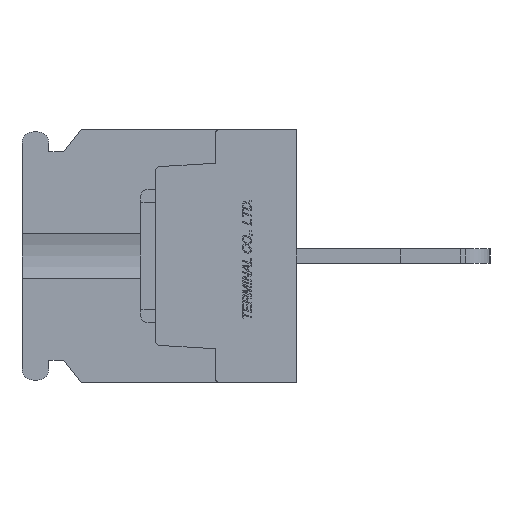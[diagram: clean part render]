
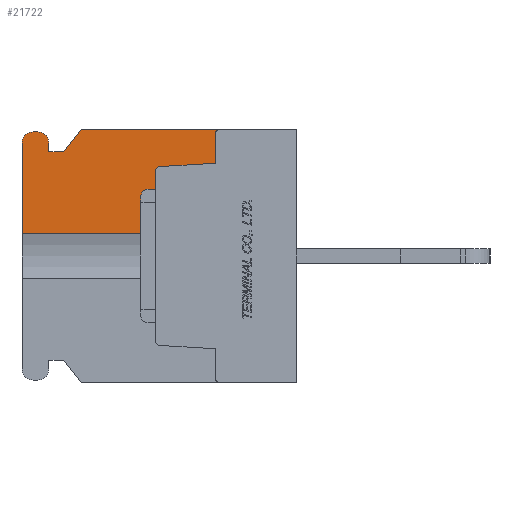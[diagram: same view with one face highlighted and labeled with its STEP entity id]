
A CAD part, left-side view. The second image highlights one B-rep face of the part: STEP entity #21722.
In plain terms, the highlighted planar face has unit normal (-1, 0, 0).
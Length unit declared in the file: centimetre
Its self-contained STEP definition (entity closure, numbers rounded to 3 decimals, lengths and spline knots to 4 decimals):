
#1578=VECTOR('',#24779,1.);
#1580=VECTOR('',#24782,1.);
#1582=VECTOR('',#24789,1.);
#1583=VECTOR('',#24790,1.);
#1584=VECTOR('',#24791,1.);
#1585=VECTOR('',#24792,1.);
#1586=VECTOR('',#24793,1.);
#1587=VECTOR('',#24796,1.);
#1588=VECTOR('',#24799,1.);
#1589=VECTOR('',#24800,1.);
#3965=LINE('',#31857,#1578);
#3967=LINE('',#31861,#1580);
#3969=LINE('',#31867,#1582);
#3970=LINE('',#31869,#1583);
#3971=LINE('',#31871,#1584);
#3972=LINE('',#31873,#1585);
#3973=LINE('',#31875,#1586);
#3974=LINE('',#31879,#1587);
#3975=LINE('',#31883,#1588);
#3976=LINE('',#31885,#1589);
#6424=VERTEX_POINT('',#31850);
#6425=VERTEX_POINT('',#31852);
#6426=VERTEX_POINT('',#31856);
#6427=VERTEX_POINT('',#31860);
#6428=VERTEX_POINT('',#31864);
#6429=VERTEX_POINT('',#31868);
#6430=VERTEX_POINT('',#31870);
#6431=VERTEX_POINT('',#31872);
#6432=VERTEX_POINT('',#31874);
#6433=VERTEX_POINT('',#31876);
#6434=VERTEX_POINT('',#31878);
#6435=VERTEX_POINT('',#31880);
#6436=VERTEX_POINT('',#31882);
#6437=VERTEX_POINT('',#31884);
#7915=CIRCLE('',#36866,0.03);
#7916=CIRCLE('',#36870,0.03);
#7917=CIRCLE('',#36872,0.075);
#7918=CIRCLE('',#36873,0.075);
#9624=EDGE_CURVE('',#6425,#6424,#7915,.T.);
#9627=EDGE_CURVE('',#6424,#6426,#3965,.T.);
#9629=EDGE_CURVE('',#6426,#6427,#3967,.T.);
#9631=EDGE_CURVE('',#6427,#6428,#7916,.T.);
#9632=EDGE_CURVE('',#6429,#6425,#3969,.T.);
#9633=EDGE_CURVE('',#6430,#6428,#3970,.T.);
#9634=EDGE_CURVE('',#6431,#6430,#3971,.T.);
#9635=EDGE_CURVE('',#6432,#6431,#3972,.T.);
#9636=EDGE_CURVE('',#6433,#6432,#3973,.T.);
#9637=EDGE_CURVE('',#6434,#6433,#7917,.T.);
#9638=EDGE_CURVE('',#6435,#6434,#3974,.T.);
#9639=EDGE_CURVE('',#6436,#6435,#7918,.T.);
#9640=EDGE_CURVE('',#6437,#6436,#3975,.T.);
#9641=EDGE_CURVE('',#6437,#6429,#3976,.T.);
#14143=ORIENTED_EDGE('',*,*,#9632,.T.);
#14144=ORIENTED_EDGE('',*,*,#9624,.T.);
#14145=ORIENTED_EDGE('',*,*,#9627,.T.);
#14146=ORIENTED_EDGE('',*,*,#9629,.T.);
#14147=ORIENTED_EDGE('',*,*,#9631,.T.);
#14148=ORIENTED_EDGE('',*,*,#9633,.F.);
#14149=ORIENTED_EDGE('',*,*,#9634,.F.);
#14150=ORIENTED_EDGE('',*,*,#9635,.F.);
#14151=ORIENTED_EDGE('',*,*,#9636,.F.);
#14152=ORIENTED_EDGE('',*,*,#9637,.F.);
#14153=ORIENTED_EDGE('',*,*,#9638,.F.);
#14154=ORIENTED_EDGE('',*,*,#9639,.F.);
#14155=ORIENTED_EDGE('',*,*,#9640,.F.);
#14156=ORIENTED_EDGE('',*,*,#9641,.T.);
#19024=EDGE_LOOP('',(#14143,#14144,#14145,#14146,#14147,#14148,#14149,#14150,
#14151,#14152,#14153,#14154,#14155,#14156));
#20400=FACE_BOUND('',#19024,.T.);
#21722=ADVANCED_FACE('',(#20400),#22819,.F.);
#22819=PLANE('',#36871);
#24774=DIRECTION('',(1.,0.,0.));
#24775=DIRECTION('',(0.,0.,0.03));
#24779=DIRECTION('',(0.,-0.998,0.061));
#24782=DIRECTION('',(0.,0.,1.));
#24786=DIRECTION('',(1.,0.,0.));
#24787=DIRECTION('',(0.,0.,0.03));
#24788=DIRECTION('',(1.,0.,0.));
#24789=DIRECTION('',(0.,0.,1.));
#24790=DIRECTION('',(0.,-1.,0.));
#24791=DIRECTION('',(0.,-0.625,0.781));
#24792=DIRECTION('',(0.,-1.,0.));
#24793=DIRECTION('',(0.,0.,-1.));
#24794=DIRECTION('',(1.,0.,0.));
#24795=DIRECTION('',(0.,0.,-0.075));
#24796=DIRECTION('',(0.,-1.,0.));
#24797=DIRECTION('',(1.,0.,0.));
#24798=DIRECTION('',(0.,0.,-0.075));
#24799=DIRECTION('',(0.,0.,1.));
#24800=DIRECTION('',(0.,-1.,0.));
#31850=CARTESIAN_POINT('',(-1.1,0.9218,0.6017));
#31851=CARTESIAN_POINT('',(-1.1,0.92,0.5718));
#31852=CARTESIAN_POINT('',(-1.1,0.95,0.5718));
#31856=CARTESIAN_POINT('',(-1.1,0.55,0.6245));
#31857=CARTESIAN_POINT('',(-1.1,0.859,0.6056));
#31860=CARTESIAN_POINT('',(-1.1,0.55,0.82));
#31861=CARTESIAN_POINT('',(-1.1,0.55,0.3611));
#31864=CARTESIAN_POINT('',(-1.1,0.52,0.85));
#31865=CARTESIAN_POINT('',(-1.1,0.52,0.82));
#31866=CARTESIAN_POINT('',(-1.1,0.9454,0.));
#31867=CARTESIAN_POINT('',(-1.1,0.95,0.));
#31868=CARTESIAN_POINT('',(-1.1,0.95,0.1521));
#31869=CARTESIAN_POINT('',(-1.1,1.45,0.85));
#31870=CARTESIAN_POINT('',(-1.1,1.45,0.85));
#31871=CARTESIAN_POINT('',(-1.1,1.57,0.7));
#31872=CARTESIAN_POINT('',(-1.1,1.57,0.7));
#31873=CARTESIAN_POINT('',(-1.1,1.67,0.7));
#31874=CARTESIAN_POINT('',(-1.1,1.67,0.7));
#31875=CARTESIAN_POINT('',(-1.1,1.67,0.76));
#31876=CARTESIAN_POINT('',(-1.1,1.67,0.76));
#31877=CARTESIAN_POINT('',(-1.1,1.745,0.76));
#31878=CARTESIAN_POINT('',(-1.1,1.745,0.835));
#31879=CARTESIAN_POINT('',(-1.1,1.775,0.835));
#31880=CARTESIAN_POINT('',(-1.1,1.775,0.835));
#31881=CARTESIAN_POINT('',(-1.1,1.775,0.76));
#31882=CARTESIAN_POINT('',(-1.1,1.85,0.76));
#31883=CARTESIAN_POINT('',(-1.1,1.85,-0.76));
#31884=CARTESIAN_POINT('',(-1.1,1.85,0.1521));
#31885=CARTESIAN_POINT('',(-1.1,1.4,0.1521));
#36866=AXIS2_PLACEMENT_3D('',#31851,#24774,#24775);
#36870=AXIS2_PLACEMENT_3D('',#31865,#24786,#24787);
#36871=AXIS2_PLACEMENT_3D('',#31866,#24788,$);
#36872=AXIS2_PLACEMENT_3D('',#31877,#24794,#24795);
#36873=AXIS2_PLACEMENT_3D('',#31881,#24797,#24798);
